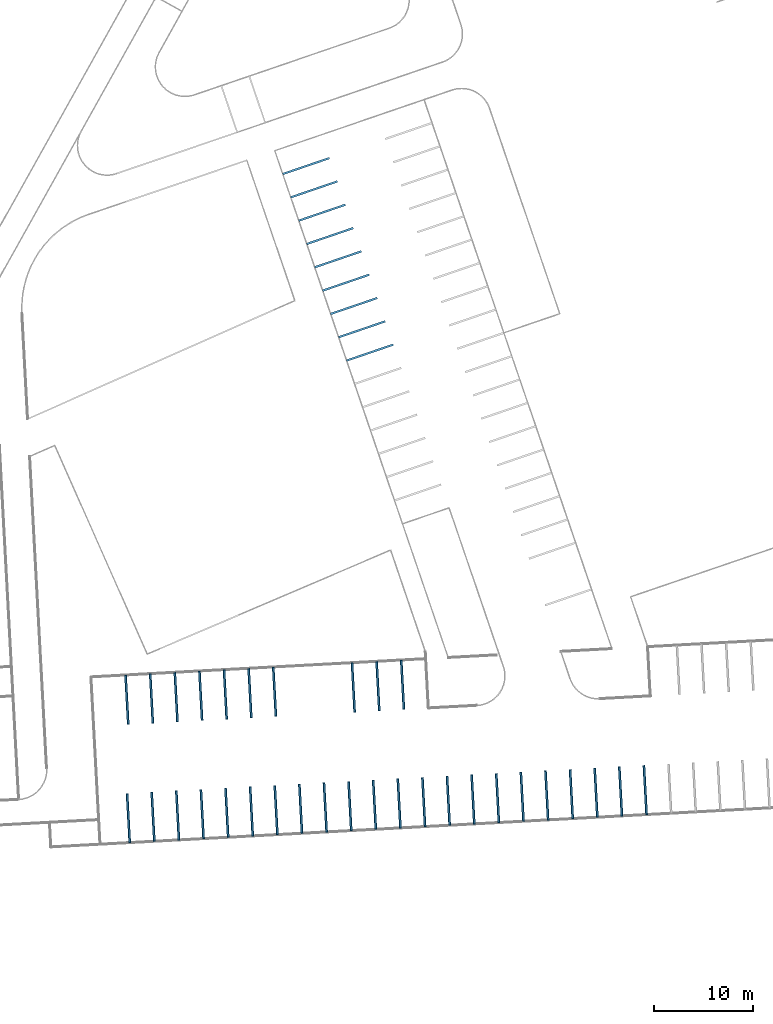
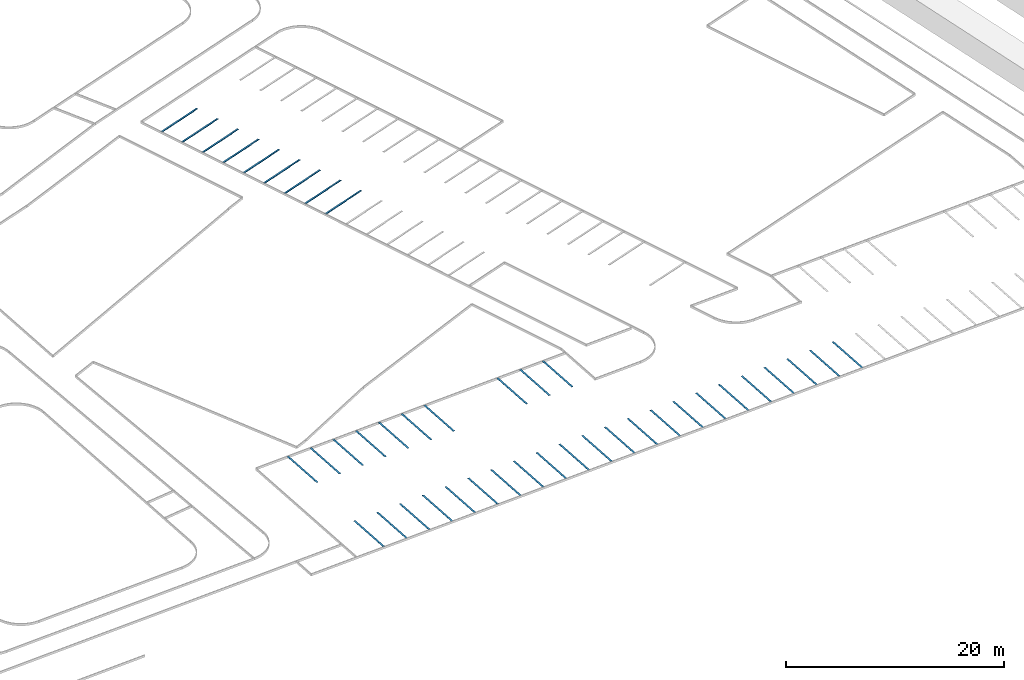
# One storey, part 77 of 112: 41 walls.
"""IFC2X3 building model written with IfcOpenShell, lengths in millimetres."""

from ifc_helpers import new_model, entity, si_unit, converted_unit, derived_unit, direction, frame, frame_2d, origin, origin_2d_with_axis, place, context, subcontext, project, spatial, rectangle, extrude, material, type_object, element, save


model = new_model("IFC2X3")

# Units and contexts
model_context = context("Model", 3, precision=0.01, world=origin(), true_north=direction((6.123031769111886e-17, 1.0)))
body_context = subcontext(model_context, "Body", "Model", "MODEL_VIEW")
ifc_project = project(units=[si_unit("LENGTHUNIT", "METRE", prefix="MILLI"), si_unit("AREAUNIT", "SQUARE_METRE"), si_unit("VOLUMEUNIT", "CUBIC_METRE"), converted_unit("PLANEANGLEUNIT", "DEGREE", entity("IfcRatioMeasure", 0.017453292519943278), si_unit("PLANEANGLEUNIT", "RADIAN"), dimensions=[0, 0, 0, 0, 0, 0, 0]), si_unit("MASSUNIT", "GRAM", prefix="KILO"), derived_unit("MASSDENSITYUNIT", [(si_unit("MASSUNIT", "GRAM", prefix="KILO"), 1), (si_unit("LENGTHUNIT", "METRE"), -3)]), derived_unit("MOMENTOFINERTIAUNIT", [(si_unit("LENGTHUNIT", "METRE"), 4)]), si_unit("TIMEUNIT", "SECOND"), si_unit("FREQUENCYUNIT", "HERTZ"), si_unit("THERMODYNAMICTEMPERATUREUNIT", "DEGREE_CELSIUS"), derived_unit("THERMALTRANSMITTANCEUNIT", [(si_unit("MASSUNIT", "GRAM", prefix="KILO"), 1), (si_unit("THERMODYNAMICTEMPERATUREUNIT", "KELVIN"), -1), (si_unit("TIMEUNIT", "SECOND"), -3)]), derived_unit("THERMALCONDUCTANCEUNIT", [(si_unit("MASSUNIT", "GRAM", prefix="KILO"), 1), (si_unit("LENGTHUNIT", "METRE"), 1), (si_unit("THERMODYNAMICTEMPERATUREUNIT", "KELVIN"), -1), (si_unit("TIMEUNIT", "SECOND"), -3)]), derived_unit("VOLUMETRICFLOWRATEUNIT", [(si_unit("LENGTHUNIT", "METRE"), 3), (si_unit("TIMEUNIT", "SECOND"), -1)]), derived_unit("MASSFLOWRATEUNIT", [(si_unit("MASSUNIT", "GRAM", prefix="KILO"), 1), (si_unit("TIMEUNIT", "SECOND"), -1)]), derived_unit("ROTATIONALFREQUENCYUNIT", [(si_unit("TIMEUNIT", "SECOND"), -1)]), si_unit("ELECTRICCURRENTUNIT", "AMPERE"), si_unit("ELECTRICVOLTAGEUNIT", "VOLT"), si_unit("POWERUNIT", "WATT"), converted_unit("FORCEUNIT", "KIP", entity("IfcRatioMeasure", 2.088543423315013e-05), si_unit("FORCEUNIT", "NEWTON"), dimensions=[1, 1, -2, 0, 0, 0, 0]), si_unit("ILLUMINANCEUNIT", "LUX"), si_unit("LUMINOUSFLUXUNIT", "LUMEN"), si_unit("LUMINOUSINTENSITYUNIT", "CANDELA"), derived_unit("USERDEFINED", [(si_unit("MASSUNIT", "GRAM", prefix="KILO"), -1), (si_unit("LENGTHUNIT", "METRE"), -2), (si_unit("TIMEUNIT", "SECOND"), 3), (si_unit("LUMINOUSFLUXUNIT", "LUMEN"), 1)]), derived_unit("USERDEFINED", [(si_unit("MASSUNIT", "GRAM", prefix="KILO"), 1), (si_unit("LENGTHUNIT", "METRE"), 3), (si_unit("TIMEUNIT", "SECOND"), -3), (si_unit("ELECTRICCURRENTUNIT", "AMPERE"), -2)]), derived_unit("USERDEFINED", [(si_unit("LENGTHUNIT", "METRE"), 2), (si_unit("TIMEUNIT", "SECOND"), -2)]), derived_unit("SOUNDPOWERUNIT", [(si_unit("MASSUNIT", "GRAM", prefix="KILO"), 1), (si_unit("LENGTHUNIT", "METRE"), 2), (si_unit("TIMEUNIT", "SECOND"), -3)]), derived_unit("SOUNDPRESSUREUNIT", [(si_unit("MASSUNIT", "GRAM", prefix="KILO"), 1), (si_unit("LENGTHUNIT", "METRE"), -1), (si_unit("TIMEUNIT", "SECOND"), -2)]), derived_unit("LINEARVELOCITYUNIT", [(si_unit("LENGTHUNIT", "METRE"), 1), (si_unit("TIMEUNIT", "SECOND"), -1)]), si_unit("PRESSUREUNIT", "PASCAL"), derived_unit("USERDEFINED", [(si_unit("LENGTHUNIT", "METRE"), -2), (si_unit("MASSUNIT", "GRAM", prefix="KILO"), 1), (si_unit("TIMEUNIT", "SECOND"), -2)]), derived_unit("LINEARFORCEUNIT", [(si_unit("MASSUNIT", "GRAM", prefix="KILO"), 1), (si_unit("LENGTHUNIT", "METRE"), 1), (si_unit("TIMEUNIT", "SECOND"), -2), (si_unit("LENGTHUNIT", "METRE"), -1)]), derived_unit("PLANARFORCEUNIT", [(si_unit("MASSUNIT", "GRAM", prefix="KILO"), 1), (si_unit("LENGTHUNIT", "METRE"), 1), (si_unit("TIMEUNIT", "SECOND"), -2), (si_unit("LENGTHUNIT", "METRE"), -2)]), derived_unit("SPECIFICHEATCAPACITYUNIT", [(si_unit("LENGTHUNIT", "METRE"), 2), (si_unit("TIMEUNIT", "SECOND"), -2), (si_unit("THERMODYNAMICTEMPERATUREUNIT", "KELVIN"), -1)]), derived_unit("VAPORPERMEABILITYUNIT", [(si_unit("TIMEUNIT", "SECOND"), 1), (si_unit("LENGTHUNIT", "METRE"), -1)]), derived_unit("DYNAMICVISCOSITYUNIT", [(si_unit("MASSUNIT", "GRAM", prefix="KILO"), 1), (si_unit("LENGTHUNIT", "METRE"), -1), (si_unit("TIMEUNIT", "SECOND"), -1)]), derived_unit("THERMALEXPANSIONCOEFFICIENTUNIT", [(si_unit("THERMODYNAMICTEMPERATUREUNIT", "KELVIN"), -1)])], contexts=[model_context])

# Site, building, storey
site_placement = place(None, frame((0.0, 0.0, 0.0), z_axis=(0.0, 0.0, 1.0), x_axis=(0.8191520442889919, 0.5735764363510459, 0.0)))
site = spatial("IfcSite", under=ifc_project, at=site_placement, Name="Default", CompositionType="ELEMENT")
building_placement = place(site_placement, origin())
building = spatial("IfcBuilding", under=site, at=building_placement, CompositionType="ELEMENT")
storey_placement = place(building_placement, frame((0.0, 0.0, -3600.0)))
storey = spatial("IfcBuildingStorey", under=building, at=storey_placement, Name="0.UG -3.60", CompositionType="ELEMENT", Elevation=-3600.0000000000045)

# Walls
ifc_material = material(Name="road_markirovka")
wall_type_1 = type_object("IfcWallType", Name="04", PredefinedType="NOTDEFINED", material=ifc_material)
wall_1_placement = place(storey_placement, frame((31632.4052027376, 102249.31355600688, 2050.0)))
element("IfcWall", 1, at=wall_1_placement, inside=storey, type_object=wall_type_1, material=ifc_material, Name="04 205061:04 205061", ObjectType="04 205061:04 205061", context=body_context, shape_type="SweptSolid", body=[
    extrude(rectangle(XDim=199.9999999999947, YDim=5000.000000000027, at=frame_2d((7.716494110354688e-12, 4.547473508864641e-12), x_axis=(1.0, 0.0))), frame((2429.579896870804, 789.7597848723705, 0.0), z_axis=(0.0, 0.0, 1.0), x_axis=(0.2774745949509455, 0.9607329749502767, 0.0)), (0.0, 0.0, 1.0), 9.999999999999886),
])
wall_type_2 = type_object("IfcWallType", Name="04", PredefinedType="NOTDEFINED", material=ifc_material)
wall_2_placement = place(storey_placement, frame((29551.345740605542, 95043.81624387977, 2050.0)))
element("IfcWall", 2, at=wall_2_placement, inside=storey, type_object=wall_type_2, material=ifc_material, Name="04 205062:04 205062", ObjectType="04 205062:04 205062", context=body_context, shape_type="SweptSolid", body=[
    extrude(rectangle(XDim=199.99999999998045, YDim=5000.000000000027, at=frame_2d((1.6648016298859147e-11, 4.547473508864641e-12), x_axis=(1.0, 0.0))), frame((2429.579896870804, 789.7597848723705, 0.0), z_axis=(0.0, 0.0, 1.0), x_axis=(0.27747459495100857, 0.9607329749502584, 0.0)), (0.0, 0.0, 1.0), 9.999999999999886),
])
wall_type_3 = type_object("IfcWallType", Name="04", PredefinedType="NOTDEFINED", material=ifc_material)
wall_3_placement = place(storey_placement, frame((28857.659253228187, 92641.9838065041, 2050.0)))
element("IfcWall", 3, at=wall_3_placement, inside=storey, type_object=wall_type_3, material=ifc_material, Name="04 205064:04 205064", ObjectType="04 205064:04 205064", context=body_context, shape_type="SweptSolid", body=[
    extrude(rectangle(XDim=199.9999999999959, YDim=5000.000000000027, at=frame_2d((7.645439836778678e-12, 4.320099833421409e-12), x_axis=(1.0, 0.0))), frame((2429.579896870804, 789.7597848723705, 0.0), z_axis=(0.0, 0.0, 1.0), x_axis=(0.27747459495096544, 0.9607329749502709, 0.0)), (0.0, 0.0, 1.0), 9.999999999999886),
])
wall_type_4 = type_object("IfcWallType", Name="04", PredefinedType="NOTDEFINED", material=ifc_material)
wall_4_placement = place(storey_placement, frame((30938.71871536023, 99847.48111863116, 2050.0)))
element("IfcWall", 4, at=wall_4_placement, inside=storey, type_object=wall_type_4, material=ifc_material, Name="04 205072:04 205072", ObjectType="04 205072:04 205072", context=body_context, shape_type="SweptSolid", body=[
    extrude(rectangle(XDim=199.99999999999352, YDim=5000.000000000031, at=frame_2d((8.93862761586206e-12, 6.821210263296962e-13), x_axis=(1.0, 0.0))), frame((2429.579896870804, 789.7597848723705, 0.0), z_axis=(0.0, 0.0, 1.0), x_axis=(0.27747459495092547, 0.9607329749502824, 0.0)), (0.0, 0.0, 1.0), 9.999999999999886),
])
wall_type_5 = type_object("IfcWallType", Name="04", PredefinedType="NOTDEFINED", material=ifc_material)
wall_5_placement = place(storey_placement, frame((30245.03222798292, 97445.6486812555, 2050.0)))
element("IfcWall", 5, at=wall_5_placement, inside=storey, type_object=wall_type_5, material=ifc_material, Name="04 205074:04 205074", ObjectType="04 205074:04 205074", context=body_context, shape_type="SweptSolid", body=[
    extrude(rectangle(XDim=199.99999999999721, YDim=5000.000000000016, at=frame_2d((-8.320455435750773e-12, -2.5011104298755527e-12), x_axis=(1.0, 0.0))), frame((2429.5798968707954, 789.7597848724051, 0.0), z_axis=(0.0, 0.0, 1.0), x_axis=(0.2774745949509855, 0.9607329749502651, 0.0)), (0.0, 0.0, 1.0), 9.999999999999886),
])
wall_type_6 = type_object("IfcWallType", Name="04", PredefinedType="NOTDEFINED", material=ifc_material)
wall_6_placement = place(storey_placement, frame((28163.972765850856, 90240.15136912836, 2050.0)))
element("IfcWall", 6, at=wall_6_placement, inside=storey, type_object=wall_type_6, material=ifc_material, Name="04 205076:04 205076", ObjectType="04 205076:04 205076", context=body_context, shape_type="SweptSolid", body=[
    extrude(rectangle(XDim=199.99999999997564, YDim=5000.000000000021, at=frame_2d((-7.169376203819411e-12, -6.821210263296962e-12), x_axis=(1.0, 0.0))), frame((2429.5798968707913, 789.7597848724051, 0.0), z_axis=(0.0, 0.0, 1.0), x_axis=(0.2774745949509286, 0.9607329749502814, 0.0)), (0.0, 0.0, 1.0), 9.999999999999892),
])
wall_type_7 = type_object("IfcWallType", Name="04", PredefinedType="NOTDEFINED", material=ifc_material)
wall_7_placement = place(storey_placement, frame((27470.286278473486, 87838.31893175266, 2050.0)))
element("IfcWall", 7, at=wall_7_placement, inside=storey, type_object=wall_type_7, material=ifc_material, Name="04 205078:04 205078", ObjectType="04 205078:04 205078", context=body_context, shape_type="SweptSolid", body=[
    extrude(rectangle(XDim=199.99999999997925, YDim=5000.000000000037, at=origin_2d_with_axis()), frame((2429.579896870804, 789.7597848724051, 0.0), z_axis=(0.0, 0.0, 1.0), x_axis=(0.2774745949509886, 0.9607329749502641, 0.0)), (0.0, 0.0, 1.0), 9.999999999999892),
])
wall_type_8 = type_object("IfcWallType", Name="04", PredefinedType="NOTDEFINED", material=ifc_material)
wall_8_placement = place(storey_placement, frame((26776.59979109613, 85436.486494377, 2050.0)))
element("IfcWall", 8, at=wall_8_placement, inside=storey, type_object=wall_type_8, material=ifc_material, Name="04 205084:04 205084", ObjectType="04 205084:04 205084", context=body_context, shape_type="SweptSolid", body=[
    extrude(rectangle(XDim=199.99999999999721, YDim=5000.000000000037, at=frame_2d((-1.6648016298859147e-11, -5.002220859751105e-12), x_axis=(1.0, 0.0))), frame((2429.5798968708, 789.7597848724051, 0.0), z_axis=(0.0, 0.0, 1.0), x_axis=(0.2774745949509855, 0.9607329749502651, 0.0)), (0.0, 0.0, 1.0), 9.999999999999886),
])
wall_type_9 = type_object("IfcWallType", Name="04", PredefinedType="NOTDEFINED", material=ifc_material)
wall_9_placement = place(storey_placement, frame((26082.913303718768, 83034.65405700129, 2050.0)))
element("IfcWall", 9, at=wall_9_placement, inside=storey, type_object=wall_type_9, material=ifc_material, Name="04 205086:04 205086", ObjectType="04 205086:04 205086", context=body_context, shape_type="SweptSolid", body=[
    extrude(rectangle(XDim=200.0000000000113, YDim=5000.000000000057, at=frame_2d((-8.327560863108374e-12, -2.2737367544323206e-12), x_axis=(1.0, 0.0))), frame((2429.5798968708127, 789.7597848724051, 0.0), z_axis=(0.0, 0.0, 1.0), x_axis=(0.27747459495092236, 0.9607329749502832, 0.0)), (0.0, 0.0, 1.0), 9.999999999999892),
])
wall_type_10 = type_object("IfcWallType", Name="04", PredefinedType="NOTDEFINED", material=ifc_material)
wall_10_placement = place(storey_placement, frame((-13282.642443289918, 66940.82510120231, 2050.0), z_axis=(0.0, 0.0, 1.0), x_axis=(0.0, 1.0, 0.0)))
element("IfcWall", 10, at=wall_10_placement, inside=storey, type_object=wall_type_10, material=ifc_material, Name="04 205113:04 205113", ObjectType="04 205113:04 205113", context=body_context, shape_type="SweptSolid", body=[
    extrude(rectangle(XDim=199.99999999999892, YDim=4999.999982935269, at=frame_2d((-3.183231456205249e-12, 3.183231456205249e-12), x_axis=(1.0, 0.0))), frame((2175.433801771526, -1405.7238274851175, 0.0), z_axis=(0.0, 0.0, 1.0), x_axis=(0.5283279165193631, 0.8490404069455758, 0.0)), (0.0, 0.0, 1.0), 9.99999999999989),
])
wall_type_11 = type_object("IfcWallType", Name="04", PredefinedType="NOTDEFINED", material=ifc_material)
wall_11_placement = place(storey_placement, frame((-9037.44040856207, 64299.18551860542, 2050.0), z_axis=(0.0, 0.0, 1.0), x_axis=(0.0, 1.0, 0.0)))
element("IfcWall", 11, at=wall_11_placement, inside=storey, type_object=wall_type_11, material=ifc_material, Name="04 206140:04 206140", ObjectType="04 206140:04 206140", context=body_context, shape_type="SweptSolid", body=[
    extrude(rectangle(XDim=199.99999999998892, YDim=4999.999982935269, at=origin_2d_with_axis()), frame((2175.433801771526, -1405.7238274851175, 0.0), z_axis=(0.0, 0.0, 1.0), x_axis=(0.5283279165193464, 0.8490404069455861, 0.0)), (0.0, 0.0, 1.0), 9.999999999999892),
])
wall_type_12 = type_object("IfcWallType", Name="04", PredefinedType="NOTDEFINED", material=ifc_material)
wall_12_placement = place(storey_placement, frame((-2669.6373564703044, 60336.72614471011, 2050.0), z_axis=(0.0, 0.0, 1.0), x_axis=(0.0, 1.0, 0.0)))
element("IfcWall", 12, at=wall_12_placement, inside=storey, type_object=wall_type_12, material=ifc_material, Name="04 206142:04 206142", ObjectType="04 206142:04 206142", context=body_context, shape_type="SweptSolid", body=[
    extrude(rectangle(XDim=199.9999999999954, YDim=4999.999982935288, at=frame_2d((3.382183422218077e-12, -2.9558577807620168e-12), x_axis=(1.0, 0.0))), frame((2175.433801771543, -1405.7238274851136, 0.0), z_axis=(0.0, 0.0, 1.0), x_axis=(0.5283279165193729, 0.8490404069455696, 0.0)), (0.0, 0.0, 1.0), 9.999999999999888),
])
wall_type_13 = type_object("IfcWallType", Name="04", PredefinedType="NOTDEFINED", material=ifc_material)
wall_13_placement = place(storey_placement, frame((-11160.041425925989, 65620.00530990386, 2050.0), z_axis=(0.0, 0.0, 1.0), x_axis=(0.0, 1.0, 0.0)))
element("IfcWall", 13, at=wall_13_placement, inside=storey, type_object=wall_type_13, material=ifc_material, Name="04 206143:04 206143", ObjectType="04 206143:04 206143", context=body_context, shape_type="SweptSolid", body=[
    extrude(rectangle(XDim=199.99999999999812, YDim=4999.999982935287, at=frame_2d((4.050093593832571e-13, -4.774847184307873e-12), x_axis=(1.0, 0.0))), frame((2175.4338017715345, -1405.7238274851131, 0.0), z_axis=(0.0, 0.0, 1.0), x_axis=(0.5283279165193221, 0.8490404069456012, 0.0)), (0.0, 0.0, 1.0), 9.999999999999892),
])
wall_type_14 = type_object("IfcWallType", Name="04", PredefinedType="NOTDEFINED", material=ifc_material)
wall_14_placement = place(storey_placement, frame((-4792.238373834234, 61657.545936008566, 2050.0), z_axis=(0.0, 0.0, 1.0), x_axis=(0.0, 1.0, 0.0)))
element("IfcWall", 14, at=wall_14_placement, inside=storey, type_object=wall_type_14, material=ifc_material, Name="04 206147:04 206147", ObjectType="04 206147:04 206147", context=body_context, shape_type="SweptSolid", body=[
    extrude(rectangle(XDim=199.99999999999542, YDim=4999.999982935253, at=frame_2d((1.9895196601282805e-13, 2.2737367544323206e-13), x_axis=(1.0, 0.0))), frame((2175.433801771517, -1405.7238274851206, 0.0), z_axis=(0.0, 0.0, 1.0), x_axis=(0.5283279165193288, 0.8490404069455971, 0.0)), (0.0, 0.0, 1.0), 9.999999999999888),
])
wall_type_15 = type_object("IfcWallType", Name="04", PredefinedType="NOTDEFINED", material=ifc_material)
wall_15_placement = place(storey_placement, frame((-547.0363391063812, 59015.90635341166, 2050.0), z_axis=(0.0, 0.0, 1.0), x_axis=(0.0, 1.0, 0.0)))
element("IfcWall", 15, at=wall_15_placement, inside=storey, type_object=wall_type_15, material=ifc_material, Name="04 206148:04 206148", ObjectType="04 206148:04 206148", context=body_context, shape_type="SweptSolid", body=[
    extrude(rectangle(XDim=199.9999999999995, YDim=4999.999982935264, at=frame_2d((6.394884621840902e-14, 2.2737367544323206e-13), x_axis=(1.0, 0.0))), frame((2175.433801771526, -1405.7238274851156, 0.0), z_axis=(0.0, 0.0, 1.0), x_axis=(0.5283279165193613, 0.8490404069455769, 0.0)), (0.0, 0.0, 1.0), 9.999999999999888),
])
wall_type_16 = type_object("IfcWallType", Name="04", PredefinedType="NOTDEFINED", material=ifc_material)
wall_16_placement = place(storey_placement, frame((-6914.839391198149, 62978.36572730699, 2050.0), z_axis=(0.0, 0.0, 1.0), x_axis=(0.0, 1.0, 0.0)))
element("IfcWall", 16, at=wall_16_placement, inside=storey, type_object=wall_type_16, material=ifc_material, Name="04 206150:04 206150", ObjectType="04 206150:04 206150", context=body_context, shape_type="SweptSolid", body=[
    extrude(rectangle(XDim=200.00000000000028, YDim=4999.999982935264, at=frame_2d((2.5721647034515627e-12, -3.183231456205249e-12), x_axis=(1.0, 0.0))), frame((2175.433801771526, -1405.7238274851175, 0.0), z_axis=(0.0, 0.0, 1.0), x_axis=(0.5283279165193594, 0.849040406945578, 0.0)), (0.0, 0.0, 1.0), 9.999999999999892),
])
wall_type_17 = type_object("IfcWallType", Name="04", PredefinedType="NOTDEFINED", material=ifc_material)
wall_17_placement = place(storey_placement, frame((6245.286897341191, 54789.28299053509, 2050.0), z_axis=(0.0, 0.0, 1.0), x_axis=(0.0, 1.0, 0.0)))
element("IfcWall", 17, at=wall_17_placement, inside=storey, type_object=wall_type_17, material=ifc_material, Name="04 206153:04 206153", ObjectType="04 206153:04 206153", context=body_context, shape_type="SweptSolid", body=[
    extrude(rectangle(XDim=200.00000000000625, YDim=4999.999982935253, at=frame_2d((-2.7071678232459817e-12, 3.183231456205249e-12), x_axis=(1.0, 0.0))), frame((2175.433801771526, -1405.723827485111, 0.0), z_axis=(0.0, 0.0, 1.0), x_axis=(0.528327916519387, 0.8490404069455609, 0.0)), (0.0, 0.0, 1.0), 9.999999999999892),
])
wall_type_18 = type_object("IfcWallType", Name="04", PredefinedType="NOTDEFINED", material=ifc_material)
wall_18_placement = place(storey_placement, frame((10490.488932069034, 52147.64340793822, 2050.0), z_axis=(0.0, 0.0, 1.0), x_axis=(0.0, 1.0, 0.0)))
element("IfcWall", 18, at=wall_18_placement, inside=storey, type_object=wall_type_18, material=ifc_material, Name="04 206155:04 206155", ObjectType="04 206155:04 206155", context=body_context, shape_type="SweptSolid", body=[
    extrude(rectangle(XDim=199.99999999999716, YDim=4999.999982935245, at=frame_2d((-2.2950530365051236e-12, 3.410605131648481e-12), x_axis=(1.0, 0.0))), frame((2175.433801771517, -1405.7238274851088, 0.0), z_axis=(0.0, 0.0, 1.0), x_axis=(0.5283279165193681, 0.8490404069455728, 0.0)), (0.0, 0.0, 1.0), 9.999999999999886),
])
wall_type_19 = type_object("IfcWallType", Name="04", PredefinedType="NOTDEFINED", material=ifc_material)
wall_19_placement = place(storey_placement, frame((-17924.496637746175, 55695.6843685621, 2050.0), z_axis=(0.0, 0.0, 1.0), x_axis=(0.0, 1.0, 0.0)))
element("IfcWall", 19, at=wall_19_placement, inside=storey, type_object=wall_type_19, material=ifc_material, Name="04 206157:04 206157", ObjectType="04 206157:04 206157", context=body_context, shape_type="SweptSolid", body=[
    extrude(rectangle(XDim=199.99999999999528, YDim=5000.000000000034, at=frame_2d((-8.810729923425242e-13, -4.547473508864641e-13), x_axis=(1.0, 0.0))), frame((2175.433809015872, -1405.7238319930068, 0.0), z_axis=(0.0, 0.0, 1.0), x_axis=(0.5283279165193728, 0.8490404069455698, 0.0)), (0.0, 0.0, 1.0), 9.999999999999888),
])
wall_type_20 = type_object("IfcWallType", Name="04", PredefinedType="NOTDEFINED", material=ifc_material)
wall_20_placement = place(storey_placement, frame((-20047.0976551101, 57016.50415986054, 2050.0), z_axis=(0.0, 0.0, 1.0), x_axis=(0.0, 1.0, 0.0)))
element("IfcWall", 20, at=wall_20_placement, inside=storey, type_object=wall_type_20, material=ifc_material, Name="04 206158:04 206158", ObjectType="04 206158:04 206158", context=body_context, shape_type="SweptSolid", body=[
    extrude(rectangle(XDim=200.00000000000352, YDim=5000.0000000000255, at=frame_2d((2.3021584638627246e-12, -3.410605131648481e-12), x_axis=(1.0, 0.0))), frame((2175.4338090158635, -1405.7238319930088, 0.0), z_axis=(0.0, 0.0, 1.0), x_axis=(0.5283279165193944, 0.8490404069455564, 0.0)), (0.0, 0.0, 1.0), 9.999999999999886),
])
wall_type_21 = type_object("IfcWallType", Name="04", PredefinedType="NOTDEFINED", material=ifc_material)
wall_21_placement = place(storey_placement, frame((-11556.69358565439, 51733.22499466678, 2050.0), z_axis=(0.0, 0.0, 1.0), x_axis=(0.0, 1.0, 0.0)))
element("IfcWall", 21, at=wall_21_placement, inside=storey, type_object=wall_type_21, material=ifc_material, Name="04 206162:04 206162", ObjectType="04 206162:04 206162", context=body_context, shape_type="SweptSolid", body=[
    extrude(rectangle(XDim=200.0000000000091, YDim=5000.000000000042, at=frame_2d((4.689582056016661e-13, -4.774847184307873e-12), x_axis=(1.0, 0.0))), frame((2175.433809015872, -1405.7238319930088, 0.0), z_axis=(0.0, 0.0, 1.0), x_axis=(0.5283279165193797, 0.8490404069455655, 0.0)), (0.0, 0.0, 1.0), 9.99999999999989),
])
wall_type_22 = type_object("IfcWallType", Name="04", PredefinedType="NOTDEFINED", material=ifc_material)
wall_22_placement = place(storey_placement, frame((-13679.294603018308, 53054.04478596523, 2050.0), z_axis=(0.0, 0.0, 1.0), x_axis=(0.0, 1.0, 0.0)))
element("IfcWall", 22, at=wall_22_placement, inside=storey, type_object=wall_type_22, material=ifc_material, Name="04 206163:04 206163", ObjectType="04 206163:04 206163", context=body_context, shape_type="SweptSolid", body=[
    extrude(rectangle(XDim=199.99999999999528, YDim=5000.000000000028, at=origin_2d_with_axis()), frame((2175.433809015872, -1405.7238319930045, 0.0), z_axis=(0.0, 0.0, 1.0), x_axis=(0.5283279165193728, 0.8490404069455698, 0.0)), (0.0, 0.0, 1.0), 9.999999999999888),
])
wall_type_23 = type_object("IfcWallType", Name="04", PredefinedType="NOTDEFINED", material=ifc_material)
wall_23_placement = place(storey_placement, frame((-15801.895620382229, 54374.86457726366, 2050.0), z_axis=(0.0, 0.0, 1.0), x_axis=(0.0, 1.0, 0.0)))
element("IfcWall", 23, at=wall_23_placement, inside=storey, type_object=wall_type_23, material=ifc_material, Name="04 206165:04 206165", ObjectType="04 206165:04 206165", context=body_context, shape_type="SweptSolid", body=[
    extrude(rectangle(XDim=200.00000000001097, YDim=5000.000000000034, at=frame_2d((3.581135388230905e-12, -8.185452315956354e-12), x_axis=(1.0, 0.0))), frame((2175.4338090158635, -1405.7238319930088, 0.0), z_axis=(0.0, 0.0, 1.0), x_axis=(0.5283279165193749, 0.8490404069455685, 0.0)), (0.0, 0.0, 1.0), 9.999999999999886),
])
wall_type_24 = type_object("IfcWallType", Name="04", PredefinedType="NOTDEFINED", material=ifc_material)
wall_24_placement = place(storey_placement, frame((-7311.491550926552, 49091.5854120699, 2050.0), z_axis=(0.0, 0.0, 1.0), x_axis=(0.0, 1.0, 0.0)))
element("IfcWall", 24, at=wall_24_placement, inside=storey, type_object=wall_type_24, material=ifc_material, Name="04 206166:04 206166", ObjectType="04 206166:04 206166", context=body_context, shape_type="SweptSolid", body=[
    extrude(rectangle(XDim=200.00000000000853, YDim=5000.000000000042, at=frame_2d((-3.453237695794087e-12, 2.9558577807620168e-12), x_axis=(1.0, 0.0))), frame((2175.433809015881, -1405.7238319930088, 0.0), z_axis=(0.0, 0.0, 1.0), x_axis=(0.5283279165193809, 0.8490404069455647, 0.0)), (0.0, 0.0, 1.0), 9.999999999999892),
])
wall_type_25 = type_object("IfcWallType", Name="04", PredefinedType="NOTDEFINED", material=ifc_material)
wall_25_placement = place(storey_placement, frame((-3066.2895161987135, 46449.94582947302, 2050.0), z_axis=(0.0, 0.0, 1.0), x_axis=(0.0, 1.0, 0.0)))
element("IfcWall", 25, at=wall_25_placement, inside=storey, type_object=wall_type_25, material=ifc_material, Name="04 206169:04 206169", ObjectType="04 206169:04 206169", context=body_context, shape_type="SweptSolid", body=[
    extrude(rectangle(XDim=200.0000000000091, YDim=5000.000000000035, at=frame_2d((-4.604316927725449e-12, 7.275957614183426e-12), x_axis=(1.0, 0.0))), frame((2175.433809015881, -1405.72383199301, 0.0), z_axis=(0.0, 0.0, 1.0), x_axis=(0.5283279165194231, 0.8490404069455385, 0.0)), (0.0, 0.0, 1.0), 9.999999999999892),
])
wall_type_26 = type_object("IfcWallType", Name="04", PredefinedType="NOTDEFINED", material=ifc_material)
wall_26_placement = place(storey_placement, frame((-9434.092568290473, 50412.40520336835, 2050.0), z_axis=(0.0, 0.0, 1.0), x_axis=(0.0, 1.0, 0.0)))
element("IfcWall", 26, at=wall_26_placement, inside=storey, type_object=wall_type_26, material=ifc_material, Name="04 206171:04 206171", ObjectType="04 206171:04 206171", context=body_context, shape_type="SweptSolid", body=[
    extrude(rectangle(XDim=199.99999999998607, YDim=5000.000000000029, at=frame_2d((9.613643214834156e-12, -9.549694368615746e-12), x_axis=(1.0, 0.0))), frame((2175.4338090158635, -1405.7238319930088, 0.0), z_axis=(0.0, 0.0, 1.0), x_axis=(0.5283279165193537, 0.8490404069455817, 0.0)), (0.0, 0.0, 1.0), 9.999999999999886),
])
wall_type_27 = type_object("IfcWallType", Name="04", PredefinedType="NOTDEFINED", material=ifc_material)
wall_27_placement = place(storey_placement, frame((-943.6884988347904, 45129.12603817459, 2050.0), z_axis=(0.0, 0.0, 1.0), x_axis=(0.0, 1.0, 0.0)))
element("IfcWall", 27, at=wall_27_placement, inside=storey, type_object=wall_type_27, material=ifc_material, Name="04 206172:04 206172", ObjectType="04 206172:04 206172", context=body_context, shape_type="SweptSolid", body=[
    extrude(rectangle(XDim=200.0, YDim=5000.0000000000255, at=frame_2d((2.9771740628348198e-12, -3.183231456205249e-12), x_axis=(1.0, 0.0))), frame((2175.4338090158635, -1405.7238319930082, 0.0), z_axis=(0.0, 0.0, 1.0), x_axis=(0.528327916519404, 0.8490404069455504, 0.0)), (0.0, 0.0, 1.0), 9.999999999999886),
])
wall_type_28 = type_object("IfcWallType", Name="04", PredefinedType="NOTDEFINED", material=ifc_material)
wall_28_placement = place(storey_placement, frame((1178.9125185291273, 43808.30624687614, 2050.0), z_axis=(0.0, 0.0, 1.0), x_axis=(0.0, 1.0, 0.0)))
element("IfcWall", 28, at=wall_28_placement, inside=storey, type_object=wall_type_28, material=ifc_material, Name="04 206175:04 206175", ObjectType="04 206175:04 206175", context=body_context, shape_type="SweptSolid", body=[
    extrude(rectangle(XDim=200.00000000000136, YDim=5000.000000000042, at=frame_2d((2.3021584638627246e-12, -3.865352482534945e-12), x_axis=(1.0, 0.0))), frame((2175.433809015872, -1405.7238319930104, 0.0), z_axis=(0.0, 0.0, 1.0), x_axis=(0.528327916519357, 0.8490404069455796, 0.0)), (0.0, 0.0, 1.0), 9.999999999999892),
])
wall_type_29 = type_object("IfcWallType", Name="04", PredefinedType="NOTDEFINED", material=ifc_material)
wall_29_placement = place(storey_placement, frame((3301.513535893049, 42487.48645557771, 2050.0), z_axis=(0.0, 0.0, 1.0), x_axis=(0.0, 1.0, 0.0)))
element("IfcWall", 29, at=wall_29_placement, inside=storey, type_object=wall_type_29, material=ifc_material, Name="04 206177:04 206177", ObjectType="04 206177:04 206177", context=body_context, shape_type="SweptSolid", body=[
    extrude(rectangle(XDim=199.99999999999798, YDim=5000.000000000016, at=frame_2d((-1.1510792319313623e-12, 4.774847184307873e-12), x_axis=(1.0, 0.0))), frame((2175.4338090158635, -1405.7238319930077, 0.0), z_axis=(0.0, 0.0, 1.0), x_axis=(0.5283279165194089, 0.8490404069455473, 0.0)), (0.0, 0.0, 1.0), 9.999999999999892),
])
wall_type_30 = type_object("IfcWallType", Name="04", PredefinedType="NOTDEFINED", material=ifc_material)
wall_30_placement = place(storey_placement, frame((5424.114553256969, 41166.66666427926, 2050.0), z_axis=(0.0, 0.0, 1.0), x_axis=(0.0, 1.0, 0.0)))
element("IfcWall", 30, at=wall_30_placement, inside=storey, type_object=wall_type_30, material=ifc_material, Name="04 206180:04 206180", ObjectType="04 206180:04 206180", context=body_context, shape_type="SweptSolid", body=[
    extrude(rectangle(XDim=200.00000000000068, YDim=5000.000000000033, at=frame_2d((1.3571366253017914e-12, -4.320099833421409e-12), x_axis=(1.0, 0.0))), frame((2175.4338090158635, -1405.7238319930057, 0.0), z_axis=(0.0, 0.0, 1.0), x_axis=(0.5283279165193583, 0.8490404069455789, 0.0)), (0.0, 0.0, 1.0), 9.999999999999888),
])
wall_type_31 = type_object("IfcWallType", Name="04", PredefinedType="NOTDEFINED", material=ifc_material)
wall_31_placement = place(storey_placement, frame((-5188.890533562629, 47770.76562077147, 2050.0), z_axis=(0.0, 0.0, 1.0), x_axis=(0.0, 1.0, 0.0)))
element("IfcWall", 31, at=wall_31_placement, inside=storey, type_object=wall_type_31, material=ifc_material, Name="04 206181:04 206181", ObjectType="04 206181:04 206181", context=body_context, shape_type="SweptSolid", body=[
    extrude(rectangle(XDim=199.99999999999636, YDim=5000.000000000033, at=frame_2d((-6.750155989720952e-13, -2.2737367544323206e-13), x_axis=(1.0, 0.0))), frame((2175.433809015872, -1405.7238319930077, 0.0), z_axis=(0.0, 0.0, 1.0), x_axis=(0.528327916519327, 0.8490404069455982, 0.0)), (0.0, 0.0, 1.0), 9.999999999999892),
])
wall_type_32 = type_object("IfcWallType", Name="04", PredefinedType="NOTDEFINED", material=ifc_material)
wall_32_placement = place(storey_placement, frame((7546.715570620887, 39845.846872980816, 2050.0), z_axis=(0.0, 0.0, 1.0), x_axis=(0.0, 1.0, 0.0)))
element("IfcWall", 32, at=wall_32_placement, inside=storey, type_object=wall_type_32, material=ifc_material, Name="04 206182:04 206182", ObjectType="04 206182:04 206182", context=body_context, shape_type="SweptSolid", body=[
    extrude(rectangle(XDim=200.0000000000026, YDim=5000.000000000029, at=frame_2d((1.8971491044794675e-12, -3.865352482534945e-12), x_axis=(1.0, 0.0))), frame((2175.4338090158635, -1405.72383199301, 0.0), z_axis=(0.0, 0.0, 1.0), x_axis=(0.5283279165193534, 0.8490404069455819, 0.0)), (0.0, 0.0, 1.0), 9.999999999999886),
])
wall_type_33 = type_object("IfcWallType", Name="04", PredefinedType="NOTDEFINED", material=ifc_material)
wall_33_placement = place(storey_placement, frame((11791.917605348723, 37204.207290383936, 2050.0), z_axis=(0.0, 0.0, 1.0), x_axis=(0.0, 1.0, 0.0)))
element("IfcWall", 33, at=wall_33_placement, inside=storey, type_object=wall_type_33, material=ifc_material, Name="04 206185:04 206185", ObjectType="04 206185:04 206185", context=body_context, shape_type="SweptSolid", body=[
    extrude(rectangle(XDim=200.0000000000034, YDim=5000.000000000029, at=frame_2d((4.689582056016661e-13, -5.002220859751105e-12), x_axis=(1.0, 0.0))), frame((2175.4338090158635, -1405.7238319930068, 0.0), z_axis=(0.0, 0.0, 1.0), x_axis=(0.5283279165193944, 0.8490404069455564, 0.0)), (0.0, 0.0, 1.0), 9.999999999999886),
])
wall_type_34 = type_object("IfcWallType", Name="04", PredefinedType="NOTDEFINED", material=ifc_material)
wall_34_placement = place(storey_placement, frame((13914.518622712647, 35883.3874990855, 2050.0), z_axis=(0.0, 0.0, 1.0), x_axis=(0.0, 1.0, 0.0)))
element("IfcWall", 34, at=wall_34_placement, inside=storey, type_object=wall_type_34, material=ifc_material, Name="04 206188:04 206188", ObjectType="04 206188:04 206188", context=body_context, shape_type="SweptSolid", body=[
    extrude(rectangle(XDim=199.99999999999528, YDim=5000.0000000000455, at=frame_2d((-2.7000623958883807e-13, 2.0463630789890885e-12), x_axis=(1.0, 0.0))), frame((2175.4338090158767, -1405.7238319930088, 0.0), z_axis=(0.0, 0.0, 1.0), x_axis=(0.5283279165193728, 0.8490404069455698, 0.0)), (0.0, 0.0, 1.0), 9.999999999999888),
])
wall_type_35 = type_object("IfcWallType", Name="04", PredefinedType="NOTDEFINED", material=ifc_material)
wall_35_placement = place(storey_placement, frame((9669.316587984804, 38525.027081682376, 2050.0), z_axis=(0.0, 0.0, 1.0), x_axis=(0.0, 1.0, 0.0)))
element("IfcWall", 35, at=wall_35_placement, inside=storey, type_object=wall_type_35, material=ifc_material, Name="04 206190:04 206190", ObjectType="04 206190:04 206190", context=body_context, shape_type="SweptSolid", body=[
    extrude(rectangle(XDim=200.00000000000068, YDim=5000.0000000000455, at=frame_2d((7.389644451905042e-13, -2.5011104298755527e-12), x_axis=(1.0, 0.0))), frame((2175.4338090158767, -1405.72383199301, 0.0), z_axis=(0.0, 0.0, 1.0), x_axis=(0.5283279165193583, 0.8490404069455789, 0.0)), (0.0, 0.0, 1.0), 9.999999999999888),
])
wall_type_36 = type_object("IfcWallType", Name="04", PredefinedType="NOTDEFINED", material=ifc_material)
wall_36_placement = place(storey_placement, frame((16037.119640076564, 34562.56770778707, 2050.0), z_axis=(0.0, 0.0, 1.0), x_axis=(0.0, 1.0, 0.0)))
element("IfcWall", 36, at=wall_36_placement, inside=storey, type_object=wall_type_36, material=ifc_material, Name="04 206214:04 206214", ObjectType="04 206214:04 206214", context=body_context, shape_type="SweptSolid", body=[
    extrude(rectangle(XDim=200.00000000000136, YDim=5000.000000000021, at=frame_2d((1.1510792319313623e-12, -1.5916157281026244e-12), x_axis=(1.0, 0.0))), frame((2175.4338090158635, -1405.7238319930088, 0.0), z_axis=(0.0, 0.0, 1.0), x_axis=(0.5283279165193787, 0.8490404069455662, 0.0)), (0.0, 0.0, 1.0), 9.999999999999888),
])
wall_type_37 = type_object("IfcWallType", Name="04", PredefinedType="NOTDEFINED", material=ifc_material)
wall_37_placement = place(storey_placement, frame((18159.720657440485, 33241.74791648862, 2050.0), z_axis=(0.0, 0.0, 1.0), x_axis=(0.0, 1.0, 0.0)))
element("IfcWall", 37, at=wall_37_placement, inside=storey, type_object=wall_type_37, material=ifc_material, Name="04 206348:04 206348", ObjectType="04 206348:04 206348", context=body_context, shape_type="SweptSolid", body=[
    extrude(rectangle(XDim=200.00000000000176, YDim=5000.000000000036, at=frame_2d((3.858247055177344e-12, -2.2737367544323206e-13), x_axis=(1.0, 0.0))), frame((2175.433809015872, -1405.7238319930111, 0.0), z_axis=(0.0, 0.0, 1.0), x_axis=(0.5283279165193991, 0.8490404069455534, 0.0)), (0.0, 0.0, 1.0), 9.99999999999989),
])
wall_type_38 = type_object("IfcWallType", Name="04", PredefinedType="NOTDEFINED", material=ifc_material)
wall_38_placement = place(storey_placement, frame((22404.922692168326, 30600.108333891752, 2050.0), z_axis=(0.0, 0.0, 1.0), x_axis=(0.0, 1.0, 0.0)))
element("IfcWall", 38, at=wall_38_placement, inside=storey, type_object=wall_type_38, material=ifc_material, Name="04 206350:04 206350", ObjectType="04 206350:04 206350", context=body_context, shape_type="SweptSolid", body=[
    extrude(rectangle(XDim=199.99999999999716, YDim=5000.000000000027, at=frame_2d((-6.750155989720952e-13, -3.183231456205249e-12), x_axis=(1.0, 0.0))), frame((2175.4338090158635, -1405.7238319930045, 0.0), z_axis=(0.0, 0.0, 1.0), x_axis=(0.5283279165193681, 0.8490404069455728, 0.0)), (0.0, 0.0, 1.0), 9.999999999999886),
])
wall_type_39 = type_object("IfcWallType", Name="04", PredefinedType="NOTDEFINED", material=ifc_material)
wall_39_placement = place(storey_placement, frame((20282.321674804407, 31920.928125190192, 2050.0), z_axis=(0.0, 0.0, 1.0), x_axis=(0.0, 1.0, 0.0)))
element("IfcWall", 39, at=wall_39_placement, inside=storey, type_object=wall_type_39, material=ifc_material, Name="04 206351:04 206351", ObjectType="04 206351:04 206351", context=body_context, shape_type="SweptSolid", body=[
    extrude(rectangle(XDim=199.99999999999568, YDim=5000.000000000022, at=origin_2d_with_axis()), frame((2175.4338090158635, -1405.7238319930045, 0.0), z_axis=(0.0, 0.0, 1.0), x_axis=(0.5283279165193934, 0.849040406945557, 0.0)), (0.0, 0.0, 1.0), 9.999999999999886),
])
wall_type_40 = type_object("IfcWallType", Name="04", PredefinedType="NOTDEFINED", material=ifc_material)
wall_40_placement = place(storey_placement, frame((24527.523709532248, 29279.288542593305, 2050.0), z_axis=(0.0, 0.0, 1.0), x_axis=(0.0, 1.0, 0.0)))
element("IfcWall", 40, at=wall_40_placement, inside=storey, type_object=wall_type_40, material=ifc_material, Name="04 206356:04 206356", ObjectType="04 206356:04 206356", context=body_context, shape_type="SweptSolid", body=[
    extrude(rectangle(XDim=200.00000000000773, YDim=5000.000000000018, at=frame_2d((-4.192202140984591e-12, 2.5011104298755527e-12), x_axis=(1.0, 0.0))), frame((2175.4338090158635, -1405.7238319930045, 0.0), z_axis=(0.0, 0.0, 1.0), x_axis=(0.5283279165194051, 0.8490404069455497, 0.0)), (0.0, 0.0, 1.0), 9.999999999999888),
])
wall_type_41 = type_object("IfcWallType", Name="04", PredefinedType="NOTDEFINED", material=ifc_material)
wall_41_placement = place(storey_placement, frame((8367.887914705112, 53468.46319923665, 2050.0), z_axis=(0.0, 0.0, 1.0), x_axis=(0.0, 1.0, 0.0)))
element("IfcWall", 41, at=wall_41_placement, inside=storey, type_object=wall_type_41, material=ifc_material, Name="04 206405:04 206405", ObjectType="04 206405:04 206405", context=body_context, shape_type="SweptSolid", body=[
    extrude(rectangle(XDim=199.99999999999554, YDim=4999.999982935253, at=frame_2d((3.112177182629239e-12, -3.183231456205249e-12), x_axis=(1.0, 0.0))), frame((2175.433801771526, -1405.7238274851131, 0.0), z_axis=(0.0, 0.0, 1.0), x_axis=(0.5283279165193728, 0.8490404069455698, 0.0)), (0.0, 0.0, 1.0), 9.999999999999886),
])

save(model, "model.ifc")
